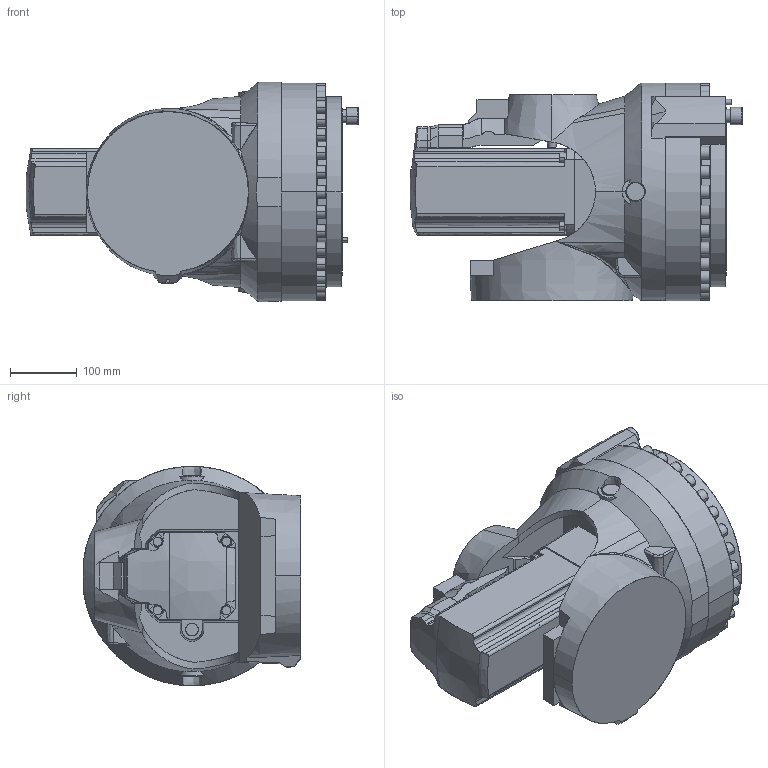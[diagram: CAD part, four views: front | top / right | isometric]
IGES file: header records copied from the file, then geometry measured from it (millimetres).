
Start section: SolidWorks IGES file using analytic representation for surfaces
Global section: file name: B:\DM\Robotics\SEROP_PROJ\Product Development\DevelopmentProjects\HD\3_Design PRMD\4_Struktur SAP o CAD\Lättmodeller\IRB8700-SW6_800-350\IRB8700-SW6_800-350_IRC5_IGES_j\IRB8700-SW6_800-350_IRC5_rev00_LINK5_CAD.IGS; native system: SolidWorks 2014; preprocessor: SolidWorks 2014; author: sepehak; date: 150605.110246; units: millimetre
Bounding box: 496.12 x 325 x 328 mm (x, y, z)
Surface area: 809840.9 mm2 (no closed solid volume)
Topology: 0 solids, 0 shells, 450 faces, 7372 edges, 7372 vertices
Faces by surface type: bspline 271, revolution 179
